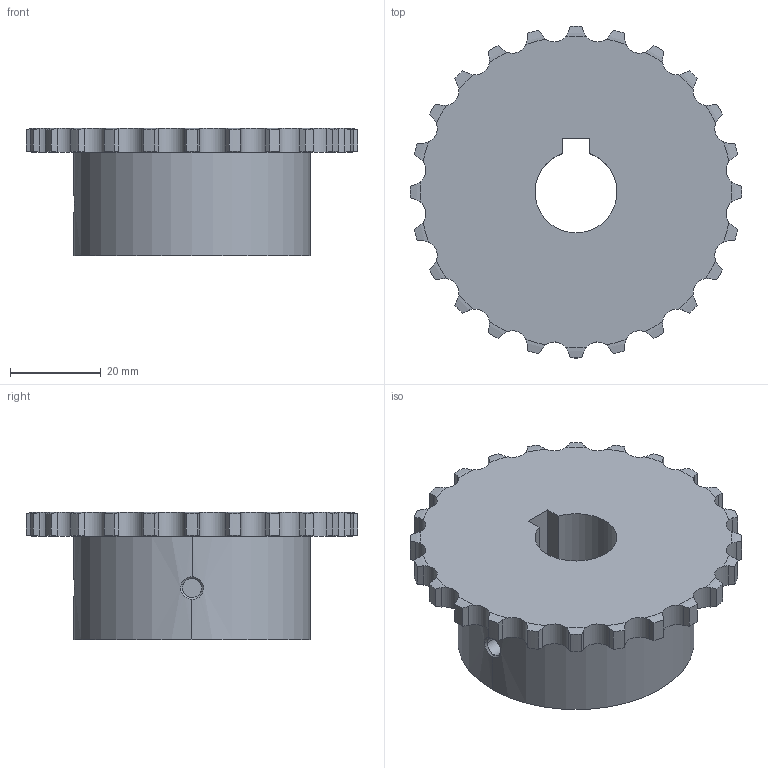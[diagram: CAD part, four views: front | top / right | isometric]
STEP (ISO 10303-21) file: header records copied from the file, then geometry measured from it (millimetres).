
FILE_DESCRIPTION((''),'2;1');
FILE_NAME('510-101-1824_PRT','2021-02-13T',('Brieden'),('Brieden'),'PRO/ENGINEER BY PARAMETRIC TECHNOLOGY CORPORATION, 2010160','PRO/ENGINEER BY PARAMETRIC TECHNOLOGY CORPORATION, 2010160','');
FILE_SCHEMA(('AUTOMOTIVE_DESIGN { 1 0 10303 214 1 1 1 1 }'));
Length unit declared in the file: millimetre
Products named in the file (1): 510-101-1824_PRT
Bounding box: 72.97 x 72.97 x 28 mm (x, y, z)
Volume: 60291.8 mm3; surface area: 14409.2 mm2
Topology: 1 solids, 1 shells, 165 faces, 477 edges, 316 vertices
Faces by surface type: cylinder 103, torus 48, plane 8, bspline 6
Entity records: 7942 total; most frequent: CARTESIAN_POINT 2367, ORIENTED_EDGE 954, DIRECTION 745, PRESENTATION_STYLE_ASSIGNMENT 478, STYLED_ITEM 478, CURVE_STYLE 477, EDGE_CURVE 477, VERTEX_POINT 316
